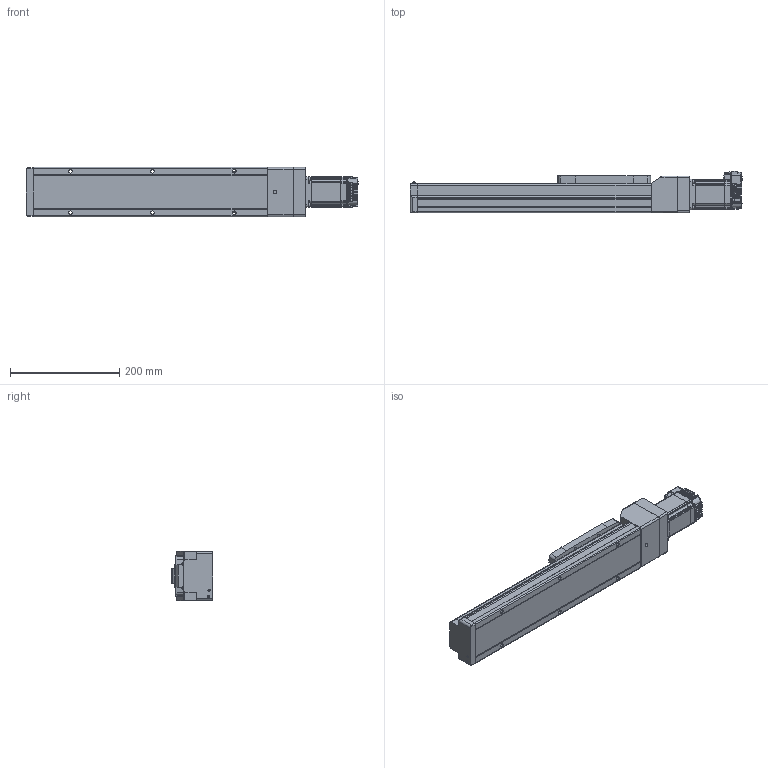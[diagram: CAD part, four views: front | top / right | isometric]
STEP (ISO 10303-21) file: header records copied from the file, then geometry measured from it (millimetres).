
FILE_DESCRIPTION (( 'STEP AP214' ), '1' );
FILE_NAME ('LEFS3(+)-40NM1仩-250-23L.STEP', '2023-06-02T05:04:55', ( '' ), ( '' ), 'SwSTEP 2.0', 'SolidWorks 2019', '' );
FILE_SCHEMA (( 'AUTOMOTIVE_DESIGN' ));
Length unit declared in the file: millimetre
Products named in the file (5): LEFS3(+)-40NM1_TABLE; CM3(+)-23L50A_4-M4; LEFS3(+)-40NM1仩-250-23L; LEFS3(+)-40NM1?_BODY_250; LEFS3(+)-40NM1_Motor Flange
Assembly tree (4 placements, depth 2):
  LEFS3(+)-40NM1仩-250-23L
    LEFS3(+)-40NM1?_BODY_250
    LEFS3(+)-40NM1_TABLE
    LEFS3(+)-40NM1_Motor Flange
    CM3(+)-23L50A_4-M4
Bounding box: 607.6 x 76.75 x 90 mm (x, y, z)
Volume: 2626248.6 mm3; surface area: 260336.8 mm2
Topology: 5 solids, 14 shells, 1646 faces, 4269 edges, 2640 vertices
Faces by surface type: plane 764, cylinder 511, bspline 133, cone 117, torus 74, sphere 47
Entity records: 55777 total; most frequent: CARTESIAN_POINT 13961, ORIENTED_EDGE 8388, DIRECTION 7810, EDGE_CURVE 4194, AXIS2_PLACEMENT_3D 2652, VERTEX_POINT 2640, LINE 2506, VECTOR 2506
